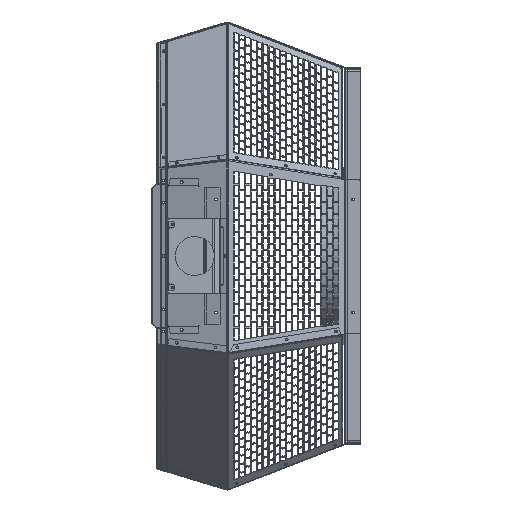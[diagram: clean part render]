
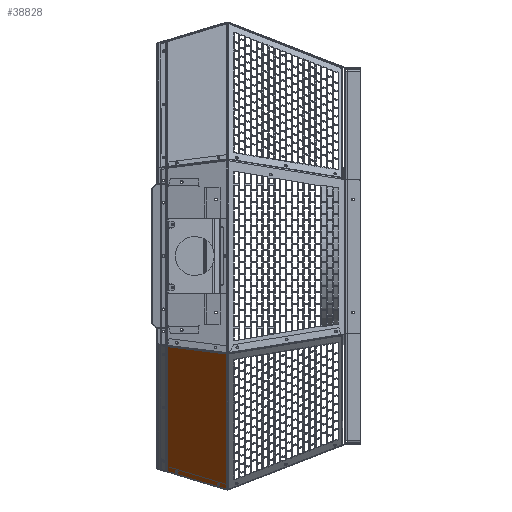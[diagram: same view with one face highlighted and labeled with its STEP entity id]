
A CAD part, left-side view. The second image highlights one B-rep face of the part: STEP entity #38828.
In plain terms, the highlighted planar face has unit normal (-0.677, 0.288, -0.677).
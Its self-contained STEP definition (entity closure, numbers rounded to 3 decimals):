
#22852 = EDGE_CURVE ( 'NONE', #82119, #82309, #254878, .T. ) ;
#22865 = EDGE_CURVE ( 'NONE', #42900, #42842, #254891, .T. ) ;
#22904 = EDGE_CURVE ( 'NONE', #82220, #82119, #254924, .T. ) ;
#22908 = EDGE_CURVE ( 'NONE', #42900, #82003, #254926, .T. ) ;
#22910 = EDGE_CURVE ( 'NONE', #82003, #82220, #254928, .T. ) ;
#22919 = EDGE_CURVE ( 'NONE', #163231, #159661, #254935, .T. ) ;
#22929 = EDGE_CURVE ( 'NONE', #81592, #42877, #254938, .T. ) ;
#22932 = EDGE_CURVE ( 'NONE', #42877, #42842, #254939, .T. ) ;
#22942 = EDGE_CURVE ( 'NONE', #82309, #81592, #254943, .T. ) ;
#22949 = EDGE_CURVE ( 'NONE', #159631, #163232, #254950, .T. ) ;
#38828 = ADVANCED_FACE ( 'NONE', ( #64926, #64925, #64924 ), #222473, .F. ) ;
#42842 = VERTEX_POINT ( 'NONE', #150975 ) ;
#42877 = VERTEX_POINT ( 'NONE', #151031 ) ;
#42900 = VERTEX_POINT ( 'NONE', #151069 ) ;
#64924 = FACE_OUTER_BOUND ( 'NONE', #253341, .T. ) ;
#64925 = FACE_BOUND ( 'NONE', #253351, .T. ) ;
#64926 = FACE_BOUND ( 'NONE', #253359, .T. ) ;
#78066 = EDGE_CURVE ( 'NONE', #163232, #159631, #229318, .T. ) ;
#78069 = EDGE_CURVE ( 'NONE', #159661, #163231, #229326, .T. ) ;
#81592 = VERTEX_POINT ( 'NONE', #183854 ) ;
#82003 = VERTEX_POINT ( 'NONE', #184134 ) ;
#82119 = VERTEX_POINT ( 'NONE', #184213 ) ;
#82220 = VERTEX_POINT ( 'NONE', #184279 ) ;
#82309 = VERTEX_POINT ( 'NONE', #184338 ) ;
#84950 = CARTESIAN_POINT ( 'NONE',  ( -148.139, 83.183, -343.639 ) ) ;
#85016 = CARTESIAN_POINT ( 'NONE',  ( -157.302, 12.601, -364.513 ) ) ;
#100083 = AXIS2_PLACEMENT_3D ( 'NONE', #146597, #146598, #146600 ) ;
#100088 = AXIS2_PLACEMENT_3D ( 'NONE', #146675, #146677, #146678 ) ;
#102534 = CARTESIAN_POINT ( 'NONE',  ( -156.446, 16.623, -363.658 ) ) ;
#102537 = CARTESIAN_POINT ( 'NONE',  ( -148.995, 79.161, -344.493 ) ) ;
#104662 = AXIS2_PLACEMENT_3D ( 'NONE', #222476, #222459, #222480 ) ;
#146436 = DIRECTION ( 'NONE',  ( 0.119, 0.951, 0.286 ) ) ;
#146440 = CARTESIAN_POINT ( 'NONE',  ( -142.613, 96.024, -343.703 ) ) ;
#146467 = DIRECTION ( 'NONE',  ( 0.286, 0.951, 0.118 ) ) ;
#146469 = CARTESIAN_POINT ( 'NONE',  ( -370.486, 0.845, -156.138 ) ) ;
#146548 = DIRECTION ( 'NONE',  ( 0.707, 0., -0.707 ) ) ;
#146550 = CARTESIAN_POINT ( 'NONE',  ( -372.081, 1.112, -154.427 ) ) ;
#146552 = CARTESIAN_POINT ( 'NONE',  ( -378.388, 4.749, -146.566 ) ) ;
#146554 = CARTESIAN_POINT ( 'NONE',  ( -370.461, -0.156, -156.589 ) ) ;
#146566 = DIRECTION ( 'NONE',  ( 0.638, -0.229, -0.736 ) ) ;
#146571 = DIRECTION ( 'NONE',  ( -0.204, -0.958, -0.203 ) ) ;
#146597 = CARTESIAN_POINT ( 'NONE',  ( -156.874, 14.612, -364.086 ) ) ;
#146598 = DIRECTION ( 'NONE',  ( 0.677, -0.288, 0.677 ) ) ;
#146600 = DIRECTION ( 'NONE',  ( 0.204, 0.958, 0.203 ) ) ;
#146610 = DIRECTION ( 'NONE',  ( -0.707, 0., 0.707 ) ) ;
#146612 = CARTESIAN_POINT ( 'NONE',  ( -370.38, 0.012, -156.597 ) ) ;
#146619 = DIRECTION ( 'NONE',  ( -0.286, -0.951, -0.118 ) ) ;
#146625 = CARTESIAN_POINT ( 'NONE',  ( -341.55, 95.758, -144.696 ) ) ;
#146635 = CARTESIAN_POINT ( 'NONE',  ( -351.893, 95.887, -134.288 ) ) ;
#146651 = DIRECTION ( 'NONE',  ( -0.707, 0., 0.707 ) ) ;
#146675 = CARTESIAN_POINT ( 'NONE',  ( -148.567, 81.172, -344.066 ) ) ;
#146677 = DIRECTION ( 'NONE',  ( 0.677, -0.288, 0.677 ) ) ;
#146678 = DIRECTION ( 'NONE',  ( 0.204, 0.958, 0.203 ) ) ;
#150975 = CARTESIAN_POINT ( 'NONE',  ( -341.906, 95.758, -144.339 ) ) ;
#151031 = CARTESIAN_POINT ( 'NONE',  ( -341.55, 95.758, -144.696 ) ) ;
#151069 = CARTESIAN_POINT ( 'NONE',  ( -370.195, 1.81, -156.018 ) ) ;
#159631 = VERTEX_POINT ( 'NONE', #84950 ) ;
#159661 = VERTEX_POINT ( 'NONE', #85016 ) ;
#163231 = VERTEX_POINT ( 'NONE', #102534 ) ;
#163232 = VERTEX_POINT ( 'NONE', #102537 ) ;
#164785 = ORIENTED_EDGE ( 'NONE', *, *, #22919, .T. ) ;
#164786 = ORIENTED_EDGE ( 'NONE', *, *, #78069, .T. ) ;
#164788 = ORIENTED_EDGE ( 'NONE', *, *, #22949, .T. ) ;
#164791 = ORIENTED_EDGE ( 'NONE', *, *, #78066, .T. ) ;
#164792 = ORIENTED_EDGE ( 'NONE', *, *, #22865, .T. ) ;
#164794 = ORIENTED_EDGE ( 'NONE', *, *, #22932, .F. ) ;
#164795 = ORIENTED_EDGE ( 'NONE', *, *, #22929, .F. ) ;
#164796 = ORIENTED_EDGE ( 'NONE', *, *, #22942, .F. ) ;
#164798 = ORIENTED_EDGE ( 'NONE', *, *, #22852, .F. ) ;
#164801 = ORIENTED_EDGE ( 'NONE', *, *, #22904, .F. ) ;
#164802 = ORIENTED_EDGE ( 'NONE', *, *, #22910, .F. ) ;
#164804 = ORIENTED_EDGE ( 'NONE', *, *, #22908, .F. ) ;
#182816 = CARTESIAN_POINT ( 'NONE',  ( -148.567, 81.172, -344.066 ) ) ;
#182817 = DIRECTION ( 'NONE',  ( 0.677, -0.288, 0.677 ) ) ;
#182818 = DIRECTION ( 'NONE',  ( 0.204, 0.958, 0.203 ) ) ;
#182820 = CARTESIAN_POINT ( 'NONE',  ( -156.874, 14.612, -364.086 ) ) ;
#182821 = DIRECTION ( 'NONE',  ( 0.677, -0.288, 0.677 ) ) ;
#182822 = DIRECTION ( 'NONE',  ( 0.204, 0.958, 0.203 ) ) ;
#183854 = CARTESIAN_POINT ( 'NONE',  ( -341.512, 95.884, -144.68 ) ) ;
#184134 = CARTESIAN_POINT ( 'NONE',  ( -370.053, 1.759, -156.182 ) ) ;
#184213 = CARTESIAN_POINT ( 'NONE',  ( -154.477, 1.048, -372.259 ) ) ;
#184279 = CARTESIAN_POINT ( 'NONE',  ( -370.191, 1.112, -156.319 ) ) ;
#184338 = CARTESIAN_POINT ( 'NONE',  ( -142.638, 95.826, -343.763 ) ) ;
#216638 = AXIS2_PLACEMENT_3D ( 'NONE', #182816, #182817, #182818 ) ;
#216642 = AXIS2_PLACEMENT_3D ( 'NONE', #182820, #182821, #182822 ) ;
#222459 = DIRECTION ( 'NONE',  ( 0.677, -0.288, 0.677 ) ) ;
#222473 = PLANE ( 'NONE',  #104662 ) ;
#222476 = CARTESIAN_POINT ( 'NONE',  ( -372.248, 0.326, -154.594 ) ) ;
#222480 = DIRECTION ( 'NONE',  ( 0.204, 0.958, 0.203 ) ) ;
#229318 = CIRCLE ( 'NONE', #216638, 2.1 ) ;
#229326 = CIRCLE ( 'NONE', #216642, 2.1 ) ;
#253341 = EDGE_LOOP ( 'NONE', ( #164792, #164794, #164795, #164796, #164798, #164801, #164802, #164804 ) ) ;
#253351 = EDGE_LOOP ( 'NONE', ( #164788, #164791 ) ) ;
#253359 = EDGE_LOOP ( 'NONE', ( #164785, #164786 ) ) ;
#254878 = LINE ( 'NONE', #146440, #254883 ) ;
#254883 = VECTOR ( 'NONE', #146436, 1000. ) ;
#254891 = LINE ( 'NONE', #146469, #254894 ) ;
#254894 = VECTOR ( 'NONE', #146467, 1000. ) ;
#254922 = VECTOR ( 'NONE', #146566, 1000. ) ;
#254924 = LINE ( 'NONE', #146550, #254927 ) ;
#254926 = LINE ( 'NONE', #146552, #254922 ) ;
#254927 = VECTOR ( 'NONE', #146548, 1000. ) ;
#254928 = LINE ( 'NONE', #146554, #254931 ) ;
#254931 = VECTOR ( 'NONE', #146571, 1000. ) ;
#254935 = CIRCLE ( 'NONE', #100083, 2.1 ) ;
#254938 = LINE ( 'NONE', #146612, #254940 ) ;
#254939 = LINE ( 'NONE', #146625, #254942 ) ;
#254940 = VECTOR ( 'NONE', #146619, 1000. ) ;
#254942 = VECTOR ( 'NONE', #146610, 1000. ) ;
#254943 = LINE ( 'NONE', #146635, #254951 ) ;
#254950 = CIRCLE ( 'NONE', #100088, 2.1 ) ;
#254951 = VECTOR ( 'NONE', #146651, 1000. ) ;
